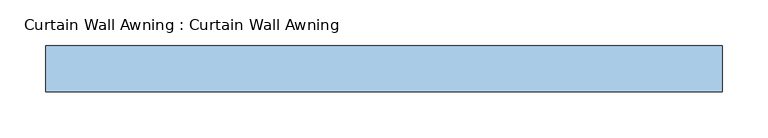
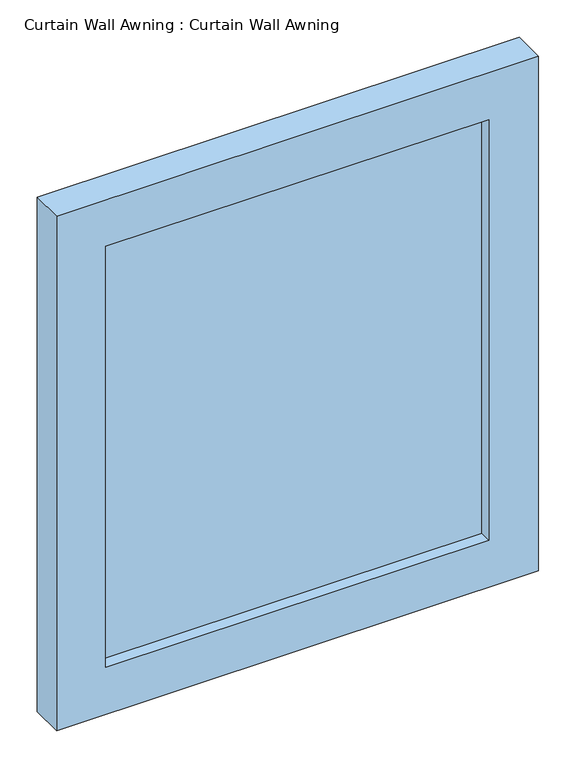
"""IFC4 building model written with IfcOpenShell, lengths in millimetres: window geometry, Curtain Wall Awning : Curtain Wall Awning."""

from ifc_helpers import new_model, si_unit, frame, origin, place, context, project, spatial, polyline, outline, extrude, source, transform, mapped, element, save


def curtain_wall_awning_curtain_wall_awning_e423f1c4(model_context):
    return source(origin(), model_context, "Body", "SweptSolid", [
        extrude(outline(polyline([(295.1791708, 44.45), (-295.1791708, 44.45), (-295.1791708, 57.15), (295.1791708, 57.15), (295.1791708, 44.45)])), frame((0.0, 0.0, 76.2), z_axis=(0.0, 0.0, 1.0), x_axis=(1.0, 0.0, 0.0)), (0.0, 0.0, 1.0), 685.6),
        extrude(outline(polyline([(838.0, -371.3791708), (0.0, -371.3791708), (0.0, 371.3791708), (838.0, 371.3791708), (838.0, -371.3791708)]), holes=[polyline([(761.8, -295.1791708), (761.8, 295.1791708), (76.2, 295.1791708), (76.2, -295.1791708), (761.8, -295.1791708)])]), frame((0.0, 25.4, 0.0), z_axis=(0.0, 1.0, 0.0), x_axis=(0.0, 0.0, 1.0)), (0.0, 0.0, 1.0), 50.8),
    ])


if __name__ == "__main__":
    model = new_model("IFC4")
    model_context = context("Model", 3, world=origin())
    ifc_project = project(units=[si_unit("LENGTHUNIT", "METRE", prefix="MILLI")], contexts=[model_context])
    site = spatial("IfcSite", under=ifc_project)
    building = spatial("IfcBuilding", under=site)
    placement = place(None, origin())
    curtain_wall_awning_curtain_wall_awning_shape = curtain_wall_awning_curtain_wall_awning_e423f1c4(model_context)
    element("IfcWindow", 1, ObjectType="Curtain Wall Awning : Curtain Wall Awning", at=placement, inside=building, context=model_context, shape_type="MappedRepresentation", body=[
        mapped(curtain_wall_awning_curtain_wall_awning_shape, transform((0.0, 0.0, 0.0), x_axis=(1.0, 0.0, 0.0), y_axis=(0.0, 1.0, 0.0), z_axis=(0.0, 0.0, 1.0))),
    ])
    save(model, "model.ifc")
